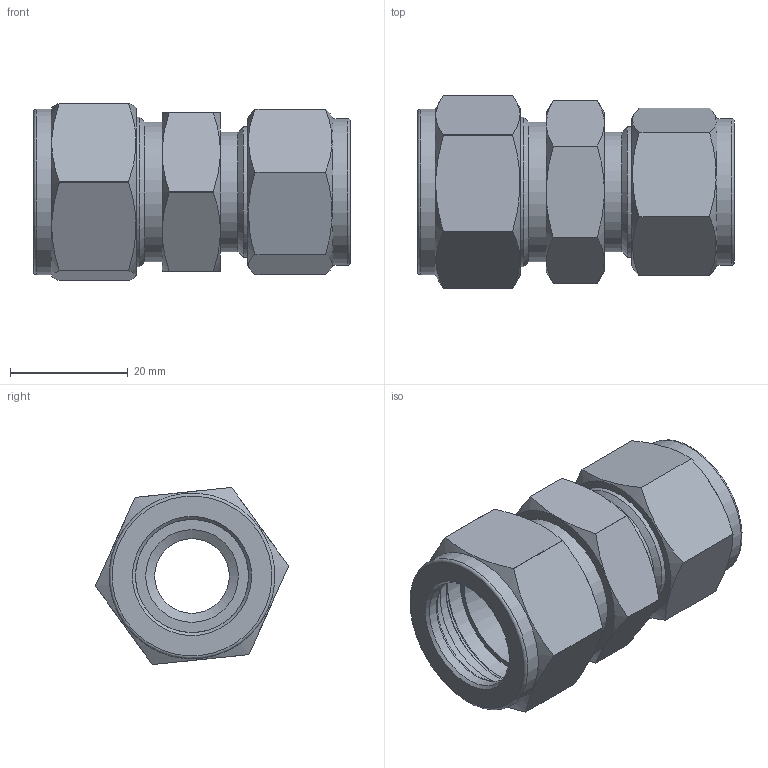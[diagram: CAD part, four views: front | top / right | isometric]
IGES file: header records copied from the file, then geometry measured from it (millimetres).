
Global section: file name: No Iges File Name specified; native system: Autodesk Inventor 2012; preprocessor: AutoDesk Inventor Iges Exporter R2012; author: 硅己绕,,1; organization: 1; date: 20150422.181903; units: millimetre
Bounding box: 53.93 x 32.83 x 30.13 mm (x, y, z)
Volume: 15656.3 mm3; surface area: 12219.6 mm2
Topology: 3 solids, 3 shells, 92 faces, 199 edges, 123 vertices
Faces by surface type: plane 34, revolution 24, cylinder 20, cone 10, torus 4
Full cylindrical faces by diameter (mm): 20.4 x2, 22.22 x1, 23.7 x1, 23.8 x1, 25 x1, 25.4 x1, 28.2 x1
